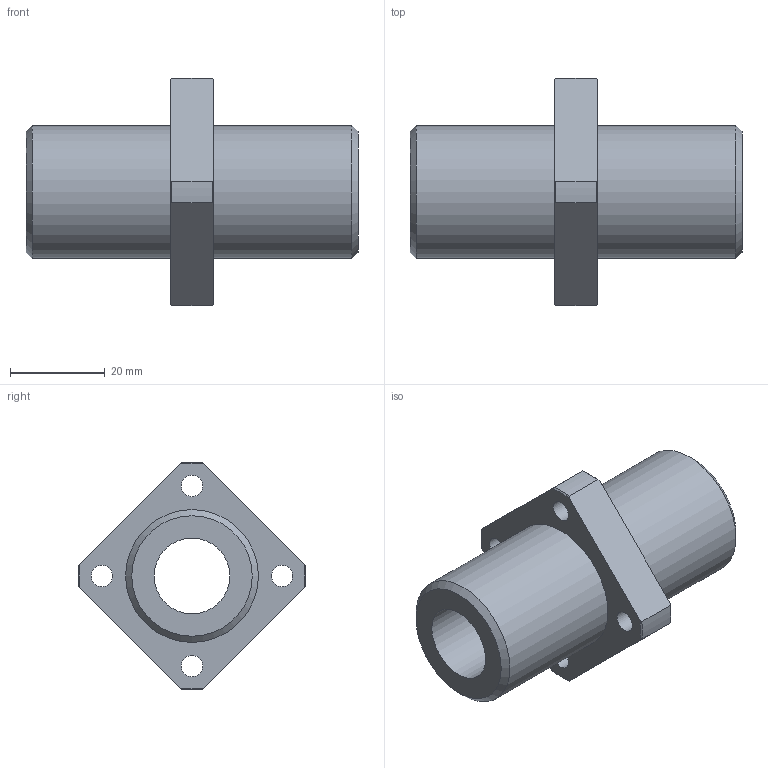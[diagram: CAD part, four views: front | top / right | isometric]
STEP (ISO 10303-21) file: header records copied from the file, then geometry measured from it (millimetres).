
FILE_DESCRIPTION(('STEP AP203'),'1');
FILE_NAME('//192.168.1.1/share/s-4 技術開発/s-4-4_CAD/s-4-4-3_見直し済み/PBC LINEAR修正済み/CFPJ/CFPJ_TOP/CFPJ/CFPJ16.step','2022-03-24T04:01:32',(' '),(' '),'Spatial InterOp 3D',' ',' ');
FILE_SCHEMA(('CONFIG_CONTROL_DESIGN'));
Length unit declared in the file: millimetre
Products named in the file (1): 1
Bounding box: 70 x 47.98 x 47.98 mm (x, y, z)
Volume: 34452.1 mm3; surface area: 12838.1 mm2
Topology: 1 solids, 1 shells, 37 faces, 91 edges, 62 vertices
Faces by surface type: cylinder 15, plane 12, cone 10
Full cylindrical faces by diameter (mm): 4.5 x4, 7.5 x4, 16 x1, 28 x2
Entity records: 1078 total; most frequent: CARTESIAN_POINT 214, DIRECTION 172, ORIENTED_EDGE 144, AXIS2_PLACEMENT_3D 78, EDGE_CURVE 72, EDGE_LOOP 66, VERTEX_POINT 56, FACE_OUTER_BOUND 48
